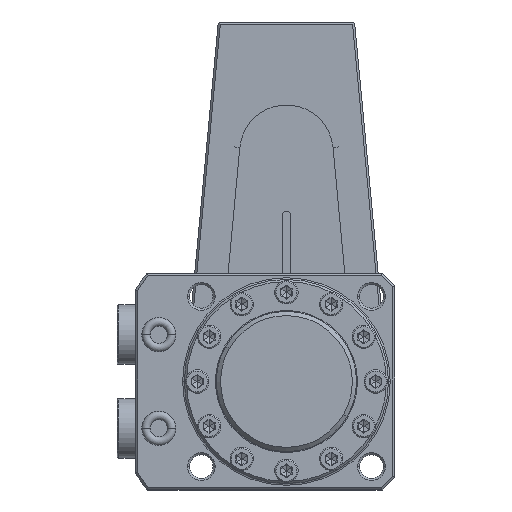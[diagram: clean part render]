
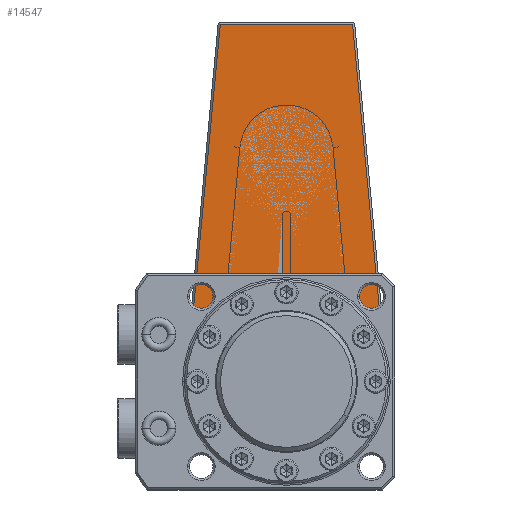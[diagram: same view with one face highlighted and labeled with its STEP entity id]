
A CAD part, front view. The second image highlights one B-rep face of the part: STEP entity #14547.
In plain terms, the highlighted planar face has unit normal (0, -1, 0).
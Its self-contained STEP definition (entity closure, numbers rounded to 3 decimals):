
#11369=DIRECTION('',(1.,0.,0.));
#11370=VECTOR('',#11369,13.315);
#11371=CARTESIAN_POINT('',(-25.,-11.5,1.));
#11372=LINE('',#11371,#11370);
#11373=DIRECTION('',(0.,0.,-1.));
#11374=VECTOR('',#11373,13.5);
#11375=CARTESIAN_POINT('',(-25.,-11.5,14.5));
#11376=LINE('',#11375,#11374);
#11377=DIRECTION('',(-0.707,0.,-0.707));
#11378=VECTOR('',#11377,1.414);
#11379=CARTESIAN_POINT('',(-24.,-11.5,15.5));
#11380=LINE('',#11379,#11378);
#11381=DIRECTION('',(-1.,0.,0.));
#11382=VECTOR('',#11381,19.5);
#11383=CARTESIAN_POINT('',(-4.5,-11.5,15.5));
#11384=LINE('',#11383,#11382);
#11385=DIRECTION('',(0.,0.,-1.));
#11386=VECTOR('',#11385,7.);
#11387=CARTESIAN_POINT('',(-4.5,-11.5,22.5));
#11388=LINE('',#11387,#11386);
#11389=DIRECTION('',(-1.,0.,0.));
#11390=VECTOR('',#11389,14.477);
#11391=CARTESIAN_POINT('',(9.977,-11.5,22.5));
#11392=LINE('',#11391,#11390);
#11393=DIRECTION('',(-0.996,0.,0.094));
#11394=VECTOR('',#11393,74.349);
#11395=CARTESIAN_POINT('',(84.,-11.5,15.545));
#11396=LINE('',#11395,#11394);
#11397=DIRECTION('',(0.,0.,1.));
#11398=VECTOR('',#11397,31.09);
#11399=CARTESIAN_POINT('',(84.,-11.5,-15.545));
#11400=LINE('',#11399,#11398);
#11401=DIRECTION('',(0.996,0.,0.094));
#11402=VECTOR('',#11401,74.349);
#11403=CARTESIAN_POINT('',(9.977,-11.5,-22.5));
#11404=LINE('',#11403,#11402);
#11405=DIRECTION('',(1.,0.,0.));
#11406=VECTOR('',#11405,14.477);
#11407=CARTESIAN_POINT('',(-4.5,-11.5,-22.5));
#11408=LINE('',#11407,#11406);
#11409=DIRECTION('',(0.,0.,-1.));
#11410=VECTOR('',#11409,7.);
#11411=CARTESIAN_POINT('',(-4.5,-11.5,-15.5));
#11412=LINE('',#11411,#11410);
#11413=DIRECTION('',(1.,0.,0.));
#11414=VECTOR('',#11413,19.5);
#11415=CARTESIAN_POINT('',(-24.,-11.5,-15.5));
#11416=LINE('',#11415,#11414);
#11417=DIRECTION('',(0.707,0.,-0.707));
#11418=VECTOR('',#11417,1.414);
#11419=CARTESIAN_POINT('',(-25.,-11.5,-14.5));
#11420=LINE('',#11419,#11418);
#11421=DIRECTION('',(0.,0.,-1.));
#11422=VECTOR('',#11421,13.5);
#11423=CARTESIAN_POINT('',(-25.,-11.5,-1.));
#11424=LINE('',#11423,#11422);
#11425=DIRECTION('',(1.,0.,0.));
#11426=VECTOR('',#11425,13.315);
#11427=CARTESIAN_POINT('',(-25.,-11.5,-1.));
#11428=LINE('',#11427,#11426);
#11434=CARTESIAN_POINT('',(0.,-11.5,0.));
#11435=DIRECTION('',(0.,1.,0.));
#11436=DIRECTION('',(-0.996,0.,0.085));
#11437=AXIS2_PLACEMENT_3D('',#11434,#11435,#11436);
#11545=CARTESIAN_POINT('',(-11.685,-11.5,
-1.));
#11725=CARTESIAN_POINT('',(-11.685,-11.5,
1.));
#14227=CARTESIAN_POINT('',(-24.,-11.5,15.5));
#14229=VERTEX_POINT('',#14227);
#14233=CARTESIAN_POINT('',(-4.5,-11.5,15.5));
#14234=VERTEX_POINT('',#14233);
#14239=CARTESIAN_POINT('',(84.,-11.5,-15.545));
#14240=CARTESIAN_POINT('',(84.,-11.5,15.545));
#14241=VERTEX_POINT('',#14239);
#14242=VERTEX_POINT('',#14240);
#14252=CARTESIAN_POINT('',(-24.,-11.5,-15.5));
#14254=VERTEX_POINT('',#14252);
#14255=CARTESIAN_POINT('',(-4.5,-11.5,-15.5));
#14256=VERTEX_POINT('',#14255);
#14275=CARTESIAN_POINT('',(-25.,-11.5,-14.5));
#14277=VERTEX_POINT('',#14275);
#14281=CARTESIAN_POINT('',(-25.,-11.5,-1.));
#14282=VERTEX_POINT('',#14281);
#14283=CARTESIAN_POINT('',(-25.,-11.5,1.));
#14285=VERTEX_POINT('',#14283);
#14289=CARTESIAN_POINT('',(-25.,-11.5,14.5));
#14290=VERTEX_POINT('',#14289);
#14292=VERTEX_POINT('',#11725);
#14293=VERTEX_POINT('',#11545);
#14339=CARTESIAN_POINT('',(-4.5,-11.5,-22.5));
#14340=VERTEX_POINT('',#14339);
#14341=CARTESIAN_POINT('',(9.977,-11.5,-22.5));
#14342=VERTEX_POINT('',#14341);
#14367=CARTESIAN_POINT('',(9.977,-11.5,22.5));
#14368=VERTEX_POINT('',#14367);
#14369=CARTESIAN_POINT('',(-4.5,-11.5,22.5));
#14370=VERTEX_POINT('',#14369);
#14508=CARTESIAN_POINT('',(0.,-11.5,0.));
#14509=DIRECTION('',(0.,1.,0.));
#14510=DIRECTION('',(1.,0.,0.));
#14511=AXIS2_PLACEMENT_3D('',#14508,#14509,#14510);
#14512=PLANE('',#14511);
#14514=ORIENTED_EDGE('',*,*,#14513,.F.);
#14516=ORIENTED_EDGE('',*,*,#14515,.F.);
#14518=ORIENTED_EDGE('',*,*,#14517,.F.);
#14520=ORIENTED_EDGE('',*,*,#14519,.F.);
#14522=ORIENTED_EDGE('',*,*,#14521,.F.);
#14524=ORIENTED_EDGE('',*,*,#14523,.F.);
#14526=ORIENTED_EDGE('',*,*,#14525,.F.);
#14528=ORIENTED_EDGE('',*,*,#14527,.F.);
#14530=ORIENTED_EDGE('',*,*,#14529,.F.);
#14532=ORIENTED_EDGE('',*,*,#14531,.F.);
#14534=ORIENTED_EDGE('',*,*,#14533,.F.);
#14536=ORIENTED_EDGE('',*,*,#14535,.F.);
#14538=ORIENTED_EDGE('',*,*,#14537,.F.);
#14540=ORIENTED_EDGE('',*,*,#14539,.F.);
#14542=ORIENTED_EDGE('',*,*,#14541,.F.);
#14544=ORIENTED_EDGE('',*,*,#14543,.T.);
#14545=EDGE_LOOP('',(#14514,#14516,#14518,#14520,#14522,#14524,#14526,#14528,
#14530,#14532,#14534,#14536,#14538,#14540,#14542,#14544));
#14546=FACE_OUTER_BOUND('',#14545,.F.);
#14547=ADVANCED_FACE('',(#14546),#14512,.F.);
#11438=CIRCLE('',#11437,11.728);
#14513=EDGE_CURVE('',#14292,#14293,#11438,.T.);
#14515=EDGE_CURVE('',#14285,#14292,#11372,.T.);
#14517=EDGE_CURVE('',#14290,#14285,#11376,.T.);
#14519=EDGE_CURVE('',#14229,#14290,#11380,.T.);
#14521=EDGE_CURVE('',#14234,#14229,#11384,.T.);
#14523=EDGE_CURVE('',#14370,#14234,#11388,.T.);
#14525=EDGE_CURVE('',#14368,#14370,#11392,.T.);
#14527=EDGE_CURVE('',#14242,#14368,#11396,.T.);
#14529=EDGE_CURVE('',#14241,#14242,#11400,.T.);
#14531=EDGE_CURVE('',#14342,#14241,#11404,.T.);
#14533=EDGE_CURVE('',#14340,#14342,#11408,.T.);
#14535=EDGE_CURVE('',#14256,#14340,#11412,.T.);
#14537=EDGE_CURVE('',#14254,#14256,#11416,.T.);
#14539=EDGE_CURVE('',#14277,#14254,#11420,.T.);
#14541=EDGE_CURVE('',#14282,#14277,#11424,.T.);
#14543=EDGE_CURVE('',#14282,#14293,#11428,.T.);
